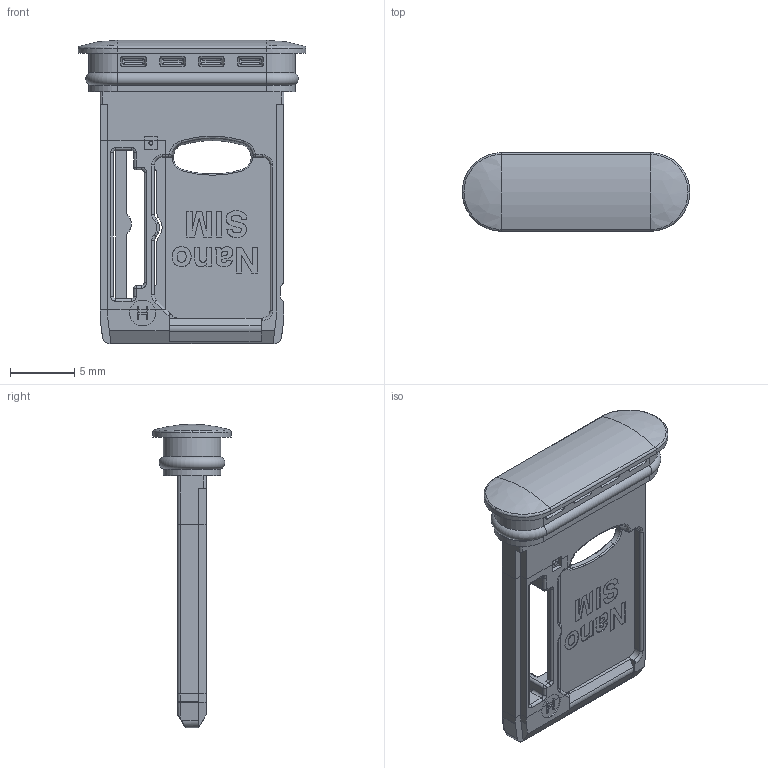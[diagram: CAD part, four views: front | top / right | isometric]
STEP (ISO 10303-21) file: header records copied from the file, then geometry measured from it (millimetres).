
FILE_DESCRIPTION((''),'2;1');
FILE_NAME('115U-T019_C_3_ORING','2026-06-11T',('fros.liao'),(''),'CREO PARAMETRIC BY PTC INC, 2018360','CREO PARAMETRIC BY PTC INC, 2018360','');
FILE_SCHEMA(('CONFIG_CONTROL_DESIGN'));
Length unit declared in the file: millimetre
Products named in the file (1): 115U-T019_C_3_ORING
Bounding box: 17.7 x 6.1 x 23.6 mm (x, y, z)
Volume: 535.2 mm3; surface area: 1125.7 mm2
Topology: 1 solids, 1 shells, 736 faces, 1951 edges, 1199 vertices
Faces by surface type: plane 277, extrusion 156, cylinder 155, bspline 74, torus 53, sphere 14, cone 7
Entity records: 27310 total; most frequent: CARTESIAN_POINT 10298, ORIENTED_EDGE 3814, DIRECTION 2917, EDGE_CURVE 1907, VECTOR 1203, VERTEX_POINT 1199, LINE 1047, AXIS2_PLACEMENT_3D 857
